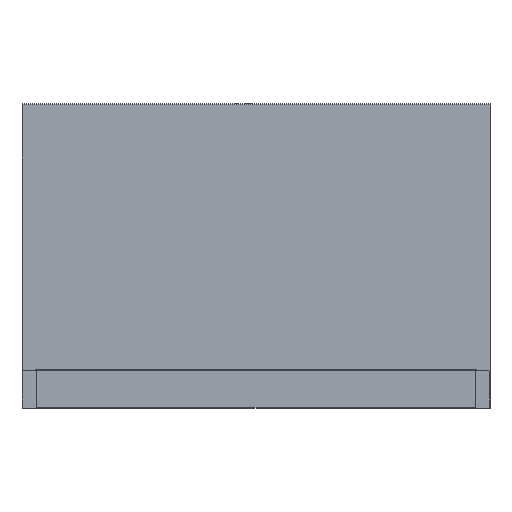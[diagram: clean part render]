
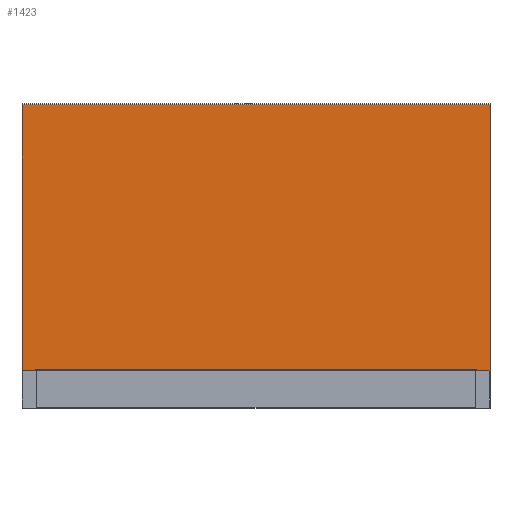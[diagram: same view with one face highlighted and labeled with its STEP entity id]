
A CAD part, front view. The second image highlights one B-rep face of the part: STEP entity #1423.
In plain terms, the highlighted planar face has unit normal (0, -1, 0).
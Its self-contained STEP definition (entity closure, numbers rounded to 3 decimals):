
#532=CARTESIAN_POINT('',(-470.,1.,82.));
#533=VERTEX_POINT('',#532);
#808=CARTESIAN_POINT('',(-470.1,1.,82.));
#809=VERTEX_POINT('',#808);
#810=CARTESIAN_POINT('',(-470.1,1.,82.));
#811=DIRECTION('',(1.,0.,-0.));
#812=VECTOR('',#811,0.1);
#813=LINE('',#810,#812);
#814=EDGE_CURVE('',#809,#533,#813,.T.);
#838=CARTESIAN_POINT('',(-470.1,1.,80.));
#839=VERTEX_POINT('',#838);
#848=CARTESIAN_POINT('',(-500.,1.,80.));
#849=VERTEX_POINT('',#848);
#850=CARTESIAN_POINT('',(-470.1,1.,80.));
#851=DIRECTION('',(-1.,0.,0.));
#852=VECTOR('',#851,29.9);
#853=LINE('',#850,#852);
#854=EDGE_CURVE('',#839,#849,#853,.T.);
#1004=CARTESIAN_POINT('',(500.,1.,80.));
#1005=VERTEX_POINT('',#1004);
#1006=CARTESIAN_POINT('',(470.1,1.,80.));
#1007=VERTEX_POINT('',#1006);
#1008=CARTESIAN_POINT('',(500.,1.,80.));
#1009=DIRECTION('',(-1.,0.,0.));
#1010=VECTOR('',#1009,29.9);
#1011=LINE('',#1008,#1010);
#1012=EDGE_CURVE('',#1005,#1007,#1011,.T.);
#1344=CARTESIAN_POINT('',(-500.,1.,648.));
#1345=VERTEX_POINT('',#1344);
#1353=CARTESIAN_POINT('',(500.,1.,648.));
#1354=VERTEX_POINT('',#1353);
#1355=CARTESIAN_POINT('',(500.,1.,648.));
#1356=DIRECTION('',(-1.,0.,0.));
#1357=VECTOR('',#1356,1000.);
#1358=LINE('',#1355,#1357);
#1359=EDGE_CURVE('',#1354,#1345,#1358,.T.);
#1372=CARTESIAN_POINT('',(500.,1.,648.));
#1373=DIRECTION('',(0.,1.,0.));
#1374=DIRECTION('',(0.,0.,1.));
#1375=AXIS2_PLACEMENT_3D('',#1372,#1373,#1374);
#1376=PLANE('',#1375);
#1377=ORIENTED_EDGE('',*,*,#854,.F.);
#1378=CARTESIAN_POINT('',(-470.1,1.,80.));
#1379=DIRECTION('',(0.,0.,1.));
#1380=VECTOR('',#1379,2.);
#1381=LINE('',#1378,#1380);
#1382=EDGE_CURVE('',#839,#809,#1381,.T.);
#1383=ORIENTED_EDGE('',*,*,#1382,.T.);
#1384=ORIENTED_EDGE('',*,*,#814,.T.);
#1385=CARTESIAN_POINT('',(470.,1.,82.));
#1386=VERTEX_POINT('',#1385);
#1387=CARTESIAN_POINT('',(-470.,1.,82.));
#1388=DIRECTION('',(1.,0.,-0.));
#1389=VECTOR('',#1388,940.);
#1390=LINE('',#1387,#1389);
#1391=EDGE_CURVE('',#533,#1386,#1390,.T.);
#1392=ORIENTED_EDGE('',*,*,#1391,.T.);
#1393=CARTESIAN_POINT('',(470.1,1.,82.));
#1394=VERTEX_POINT('',#1393);
#1395=CARTESIAN_POINT('',(470.,1.,82.));
#1396=DIRECTION('',(1.,0.,-0.));
#1397=VECTOR('',#1396,0.1);
#1398=LINE('',#1395,#1397);
#1399=EDGE_CURVE('',#1386,#1394,#1398,.T.);
#1400=ORIENTED_EDGE('',*,*,#1399,.T.);
#1401=CARTESIAN_POINT('',(470.1,1.,82.));
#1402=DIRECTION('',(0.,0.,-1.));
#1403=VECTOR('',#1402,2.);
#1404=LINE('',#1401,#1403);
#1405=EDGE_CURVE('',#1394,#1007,#1404,.T.);
#1406=ORIENTED_EDGE('',*,*,#1405,.T.);
#1407=ORIENTED_EDGE('',*,*,#1012,.F.);
#1408=CARTESIAN_POINT('',(500.,1.,648.));
#1409=DIRECTION('',(0.,0.,-1.));
#1410=VECTOR('',#1409,568.);
#1411=LINE('',#1408,#1410);
#1412=EDGE_CURVE('',#1354,#1005,#1411,.T.);
#1413=ORIENTED_EDGE('',*,*,#1412,.F.);
#1414=ORIENTED_EDGE('',*,*,#1359,.T.);
#1415=CARTESIAN_POINT('',(-500.,1.,648.));
#1416=DIRECTION('',(0.,0.,-1.));
#1417=VECTOR('',#1416,568.);
#1418=LINE('',#1415,#1417);
#1419=EDGE_CURVE('',#1345,#849,#1418,.T.);
#1420=ORIENTED_EDGE('',*,*,#1419,.T.);
#1421=EDGE_LOOP('',(#1377,#1383,#1384,#1392,#1400,#1406,#1407,#1413,#1414,#1420));
#1422=FACE_BOUND('',#1421,.T.);
#1423=ADVANCED_FACE('',(#1422),#1376,.F.);
